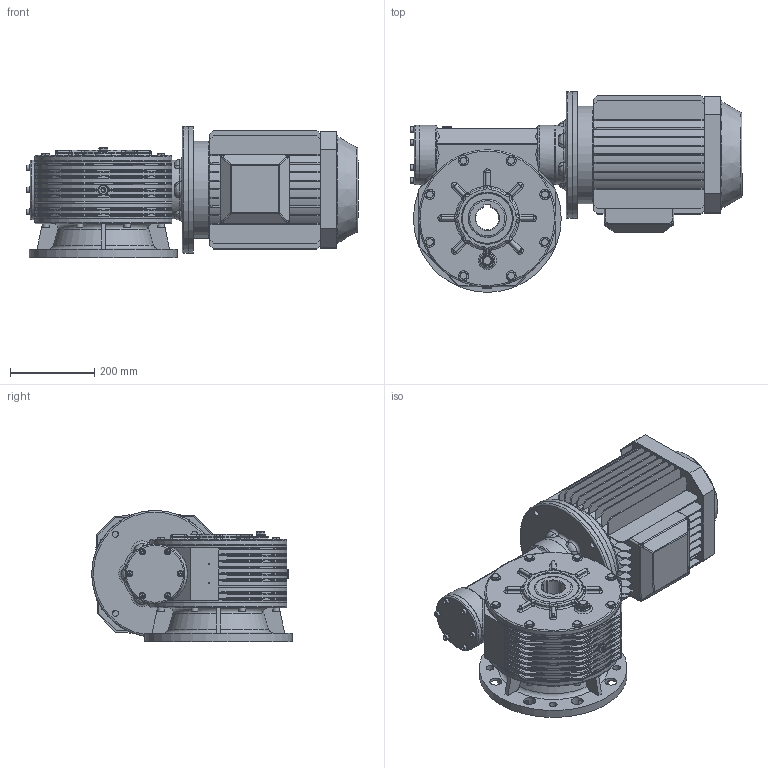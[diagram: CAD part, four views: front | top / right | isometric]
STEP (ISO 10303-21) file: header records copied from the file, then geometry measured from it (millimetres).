
FILE_DESCRIPTION((''),'2;1');
FILE_NAME('Y:\Archivi Inventor\Prog_01\GRAND_70\complessivi\Figurini\mrv70 sito\132m\MRV70_F1_132M_B5.stp','2013-02-08T15:03:29',('tech3'),(''),'Autodesk Inventor 2013','Autodesk Inventor 2013','');
FILE_SCHEMA(('AUTOMOTIVE_DESIGN { 1 0 10303 214 1 1 1 1 }'));
Length unit declared in the file: millimetre
Products named in the file (19): MRV70_132S_132M_B5; MRV70 figurino; 0107001-A0 figurino; 0107008.A0 figurino; 0107029; 0107009; 0107028; DIN 3760 AS AS - 90 x 120 x 12 - NBR; UNI 8839 A 8; Guarnizione 3_8 GAS; Tappo 3_8 GAS_esagn_incsst; DIN EN ISO 4762 M8 x 20; DIN EN 24017 M10 x 20; Tappo3_8 GAS; 0107002-A0-FIG; 0107003-A0-FIG; DIN EN ISO 4762 M10 x 20; 0107006; motori B5 132M
Assembly tree (54 placements, depth 3):
  MRV70_132S_132M_B5
    MRV70 figurino
      0107001-A0 figurino
      0107008.A0 figurino
      0107029  x2
      0107009
      0107028  x2
      DIN 3760 AS AS - 90 x 120 x 12 - NBR  x2
      UNI 8839 A 8  x6
      Guarnizione 3_8 GAS  x3
      Tappo 3_8 GAS_esagn_incsst  x2
      DIN EN ISO 4762 M8 x 20  x6
      DIN EN 24017 M10 x 20  x8
      Tappo3_8 GAS
      0107002-A0-FIG
      0107003-A0-FIG
      DIN EN ISO 4762 M10 x 20  x8
    0107006
    DIN EN ISO 4762 M8 x 20  x6
    motori B5 132M
Bounding box: 785.9 x 475 x 310.4 mm (x, y, z)
Volume: 38263416.7 mm3; surface area: 2847836.1 mm2
Topology: 53 solids, 53 shells, 2162 faces, 5291 edges, 3192 vertices
Faces by surface type: plane 887, cylinder 634, torus 253, bspline 221, cone 156, sphere 11
Full cylindrical faces by diameter (mm): 2 x2, 6.647 x12, 8 x14, 8.376 x16, 8.5 x24, 10 x16, 10.5 x16, 11 x16, 13 x12, 13.046 x1, 14 x4, 14.5 x4, 14.63 x8, 14.95 x3, 16 x8, 16.3 x3, 16.5 x2, 18 x4, 20 x6, 22 x6, 24 x10, 25 x1, 28 x8, 38 x1, 61 x1, 75 x1, 90 x4, 97.2 x2, 100 x6, 114 x2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
Entity records: 61591 total; most frequent: CARTESIAN_POINT 22724, DIRECTION 7971, ORIENTED_EDGE 7544, EDGE_CURVE 3772, AXIS2_PLACEMENT_3D 3240, VERTEX_POINT 2438, EDGE_LOOP 2096, CIRCLE 1693
